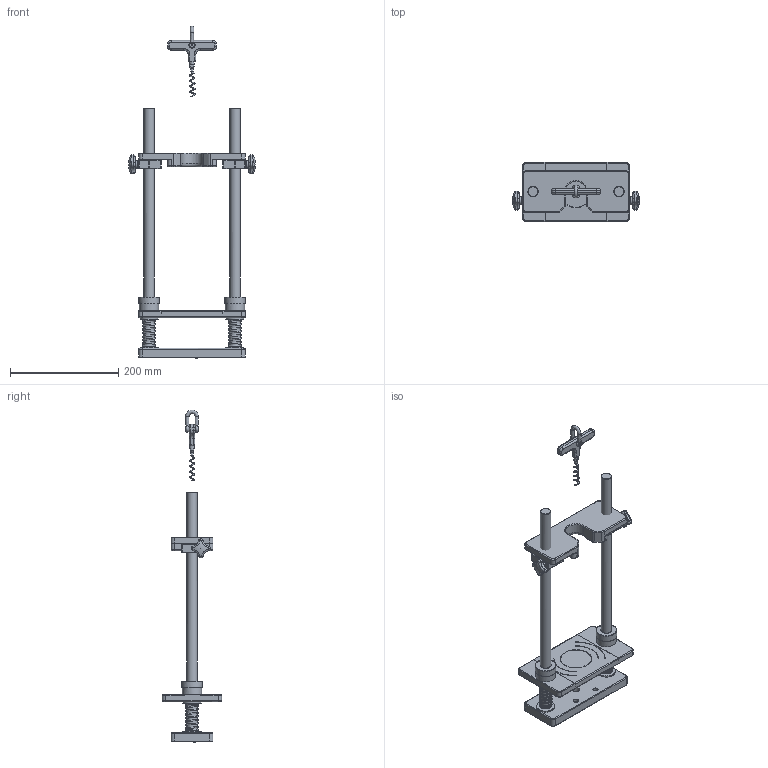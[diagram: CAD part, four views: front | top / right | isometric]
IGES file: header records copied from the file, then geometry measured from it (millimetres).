
Global section: file name: G1105; native system: AutoCAD 2018 - English; preprocessor: Autodesk Translation Framework DWG producer (atf_dwg_producer); organization: unknown; date: 20180712.121452; units: inch
Bounding box: 234.62 x 109.22 x 612.99 mm (x, y, z)
Volume: 1142090 mm3; surface area: 230177.8 mm2
Topology: 7 solids, 7 shells, 531 faces, 1280 edges, 795 vertices
Faces by surface type: bspline 531
